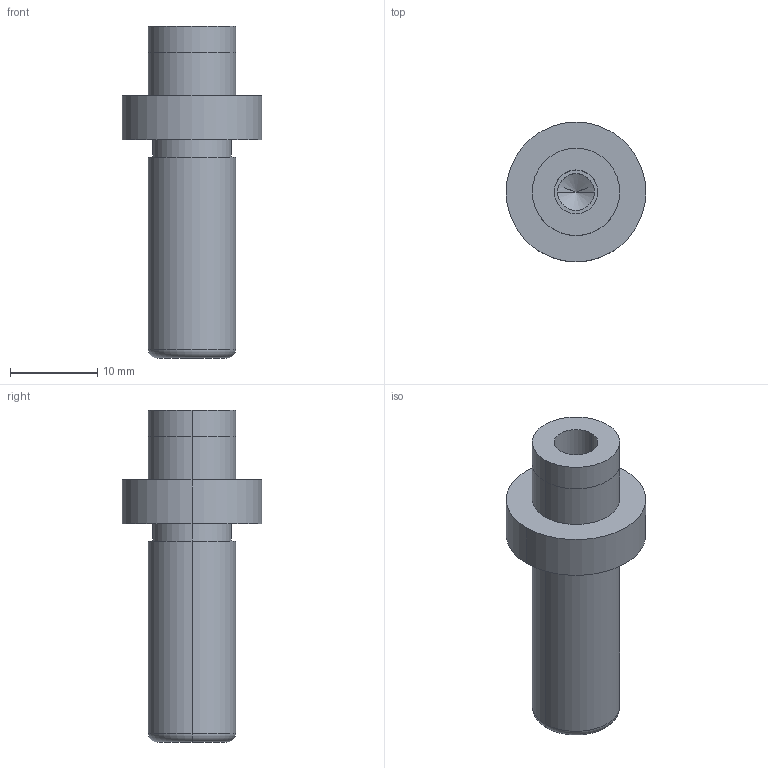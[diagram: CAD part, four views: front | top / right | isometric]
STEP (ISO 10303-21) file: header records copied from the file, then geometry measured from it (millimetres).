
FILE_DESCRIPTION(/* description */ (''),/* implementation_level */ '2;1');
FILE_NAME(/* name */ '3d_sgpr10-30_00287_r00.stp',/* time_stamp */ '2011-01-10T14:11:06+09:00',/* author */ ('MISUMI'),/* organization */ (''),/* preprocessor_version */ 'ST-DEVELOPER v11',/* originating_system */ 'UGS - NX 5.0',/* authorisation */ '');
FILE_SCHEMA (('CONFIG_CONTROL_DESIGN'));
Length unit declared in the file: millimetre
Products named in the file (1): 3d_sgpr10-30_00287_r00
Bounding box: 16 x 16 x 38 mm (x, y, z)
Volume: 3278.1 mm3; surface area: 1930 mm2
Topology: 1 solids, 1 shells, 24 faces, 48 edges, 29 vertices
Faces by surface type: cylinder 14, plane 6, cone 2, torus 2
Entity records: 706 total; most frequent: DIRECTION 126, CARTESIAN_POINT 100, ORIENTED_EDGE 92, AXIS2_PLACEMENT_3D 55, EDGE_CURVE 46, CIRCLE 30, EDGE_LOOP 29, VERTEX_POINT 29
